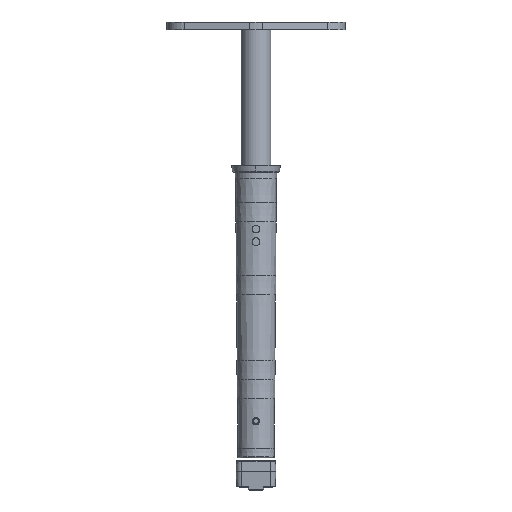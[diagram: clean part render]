
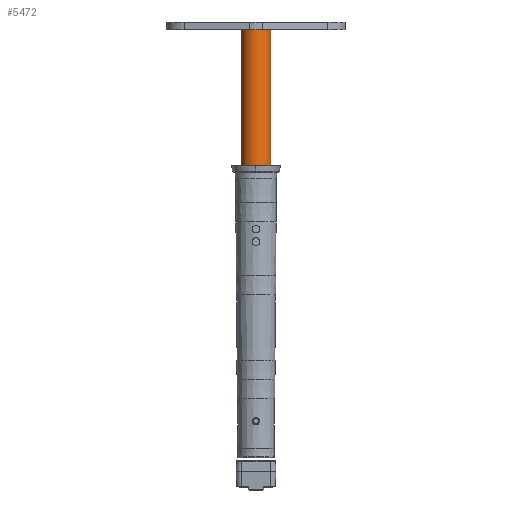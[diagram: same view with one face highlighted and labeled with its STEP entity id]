
A CAD part, front view. The second image highlights one B-rep face of the part: STEP entity #5472.
In plain terms, the highlighted cylindrical face has radius 15 mm (diameter 30 mm), a partial arc.
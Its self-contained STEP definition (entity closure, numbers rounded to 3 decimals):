
#281 = CARTESIAN_POINT ( 'NONE',  ( -15., 0., -145.024 ) ) ;
#308 = CARTESIAN_POINT ( 'NONE',  ( -15., 0., -438. ) ) ;
#518 = CARTESIAN_POINT ( 'NONE',  ( 0., 0., -3. ) ) ;
#563 = CARTESIAN_POINT ( 'NONE',  ( 0., 0., -438. ) ) ;
#848 = ORIENTED_EDGE ( 'NONE', *, *, #1366, .F. ) ;
#1159 = DIRECTION ( 'NONE',  ( 0., 0., 1. ) ) ;
#1366 = EDGE_CURVE ( 'NONE', #13061, #15318, #18678, .T. ) ;
#2480 = CARTESIAN_POINT ( 'NONE',  ( 15., 0., -3. ) ) ;
#3073 = AXIS2_PLACEMENT_3D ( 'NONE', #563, #12845, #19044 ) ;
#3224 = AXIS2_PLACEMENT_3D ( 'NONE', #8773, #1159, #16484 ) ;
#3825 = DIRECTION ( 'NONE',  ( 0., 0., 1. ) ) ;
#5379 = VERTEX_POINT ( 'NONE', #2480 ) ;
#5472 = ADVANCED_FACE ( 'NONE', ( #8471 ), #5525, .T. ) ;
#5525 = CYLINDRICAL_SURFACE ( 'NONE', #3073, 15. ) ;
#5813 = CIRCLE ( 'NONE', #3224, 15. ) ;
#6776 = CARTESIAN_POINT ( 'NONE',  ( 15., 0., -438. ) ) ;
#8092 = EDGE_CURVE ( 'NONE', #12634, #5379, #17623, .T. ) ;
#8471 = FACE_OUTER_BOUND ( 'NONE', #19415, .T. ) ;
#8773 = CARTESIAN_POINT ( 'NONE',  ( 0., 0., -145.024 ) ) ;
#10045 = EDGE_CURVE ( 'NONE', #5379, #15318, #19480, .T. ) ;
#10144 = DIRECTION ( 'NONE',  ( -1., 0., 0. ) ) ;
#10744 = ORIENTED_EDGE ( 'NONE', *, *, #11260, .T. ) ;
#11260 = EDGE_CURVE ( 'NONE', #13061, #12634, #5813, .T. ) ;
#11372 = DIRECTION ( 'NONE',  ( 0., 0., -1. ) ) ;
#12634 = VERTEX_POINT ( 'NONE', #16772 ) ;
#12845 = DIRECTION ( 'NONE',  ( 0., 0., 1. ) ) ;
#12998 = AXIS2_PLACEMENT_3D ( 'NONE', #518, #11372, #10144 ) ;
#13061 = VERTEX_POINT ( 'NONE', #281 ) ;
#14790 = ORIENTED_EDGE ( 'NONE', *, *, #8092, .T. ) ;
#14911 = CARTESIAN_POINT ( 'NONE',  ( -15., 0., -3. ) ) ;
#15318 = VERTEX_POINT ( 'NONE', #14911 ) ;
#15532 = DIRECTION ( 'NONE',  ( 0., 0., 1. ) ) ;
#15675 = VECTOR ( 'NONE', #3825, 1000. ) ;
#16484 = DIRECTION ( 'NONE',  ( 0., 1., 0. ) ) ;
#16772 = CARTESIAN_POINT ( 'NONE',  ( 15., 0., -145.024 ) ) ;
#17623 = LINE ( 'NONE', #6776, #15675 ) ;
#18152 = ORIENTED_EDGE ( 'NONE', *, *, #10045, .T. ) ;
#18678 = LINE ( 'NONE', #308, #19005 ) ;
#19005 = VECTOR ( 'NONE', #15532, 1000. ) ;
#19044 = DIRECTION ( 'NONE',  ( 1., 0., 0. ) ) ;
#19415 = EDGE_LOOP ( 'NONE', ( #848, #10744, #14790, #18152 ) ) ;
#19480 = CIRCLE ( 'NONE', #12998, 15. ) ;
